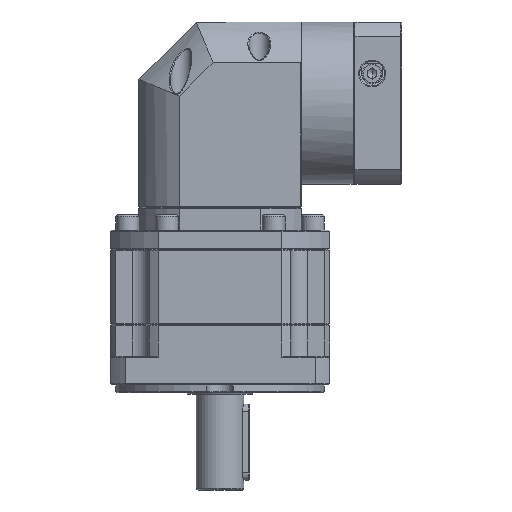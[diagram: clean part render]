
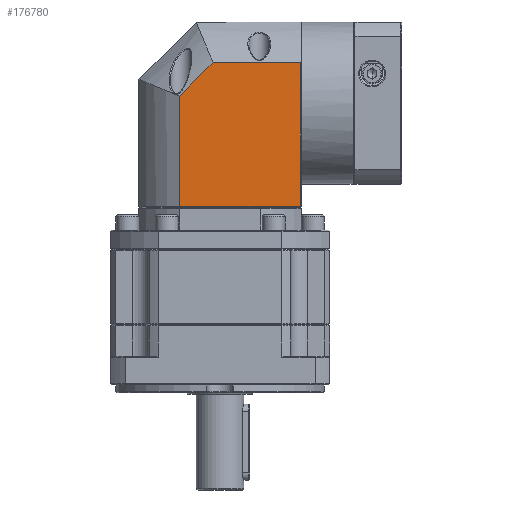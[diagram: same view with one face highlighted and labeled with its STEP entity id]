
A CAD part, front view. The second image highlights one B-rep face of the part: STEP entity #176780.
In plain terms, the highlighted planar face has unit normal (0, -1, 0).
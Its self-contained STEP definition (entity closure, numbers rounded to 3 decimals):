
#550 = PLANE ( 'NONE',  #21422 ) ;
#1205 = CARTESIAN_POINT ( 'NONE',  ( 22.761, -18.692, 222.502 ) ) ;
#3187 = VECTOR ( 'NONE', #112368, 1000. ) ;
#7606 = LINE ( 'NONE', #98141, #3187 ) ;
#8651 = DIRECTION ( 'NONE',  ( 0.707, 0., 0.707 ) ) ;
#9659 = DIRECTION ( 'NONE',  ( 1., 0., 0. ) ) ;
#11134 = LINE ( 'NONE', #178429, #153032 ) ;
#19578 = EDGE_CURVE ( 'NONE', #50686, #117092, #7606, .T. ) ;
#19679 = CARTESIAN_POINT ( 'NONE',  ( 22.761, -18.692, 297.715 ) ) ;
#21422 = AXIS2_PLACEMENT_3D ( 'NONE', #57508, #156698, #71762 ) ;
#33569 = ORIENTED_EDGE ( 'NONE', *, *, #152483, .F. ) ;
#45210 = LINE ( 'NONE', #63338, #120633 ) ;
#47443 = ORIENTED_EDGE ( 'NONE', *, *, #19578, .T. ) ;
#48551 = EDGE_CURVE ( 'NONE', #50686, #115481, #45210, .T. ) ;
#50686 = VERTEX_POINT ( 'NONE', #178414 ) ;
#51155 = CARTESIAN_POINT ( 'NONE',  ( 23.261, -18.692, 297.715 ) ) ;
#53840 = ORIENTED_EDGE ( 'NONE', *, *, #65669, .F. ) ;
#55591 = LINE ( 'NONE', #51155, #126579 ) ;
#57508 = CARTESIAN_POINT ( 'NONE',  ( 23.261, -18.692, 319.002 ) ) ;
#63338 = CARTESIAN_POINT ( 'NONE',  ( -40.452, -18.692, 319.002 ) ) ;
#65669 = EDGE_CURVE ( 'NONE', #115481, #163776, #11134, .T. ) ;
#71762 = DIRECTION ( 'NONE',  ( -1., 0., 0. ) ) ;
#89222 = FACE_OUTER_BOUND ( 'NONE', #180358, .T. ) ;
#96069 = ORIENTED_EDGE ( 'NONE', *, *, #48551, .F. ) ;
#97249 = CARTESIAN_POINT ( 'NONE',  ( 22.761, -18.692, 319.002 ) ) ;
#98141 = CARTESIAN_POINT ( 'NONE',  ( 23.261, -18.692, 222.502 ) ) ;
#99379 = EDGE_CURVE ( 'NONE', #163776, #121074, #55591, .T. ) ;
#99903 = VECTOR ( 'NONE', #168500, 1000. ) ;
#99981 = CARTESIAN_POINT ( 'NONE',  ( -22.922, -18.692, 297.715 ) ) ;
#102762 = ORIENTED_EDGE ( 'NONE', *, *, #99379, .F. ) ;
#112368 = DIRECTION ( 'NONE',  ( 1., 0., 0. ) ) ;
#115481 = VERTEX_POINT ( 'NONE', #146816 ) ;
#117092 = VERTEX_POINT ( 'NONE', #1205 ) ;
#120633 = VECTOR ( 'NONE', #162440, 1000. ) ;
#121074 = VERTEX_POINT ( 'NONE', #19679 ) ;
#126579 = VECTOR ( 'NONE', #9659, 1000. ) ;
#137484 = LINE ( 'NONE', #97249, #99903 ) ;
#146816 = CARTESIAN_POINT ( 'NONE',  ( -40.452, -18.692, 280.185 ) ) ;
#152483 = EDGE_CURVE ( 'NONE', #121074, #117092, #137484, .T. ) ;
#153032 = VECTOR ( 'NONE', #8651, 1000. ) ;
#156698 = DIRECTION ( 'NONE',  ( 0., 1., 0. ) ) ;
#162440 = DIRECTION ( 'NONE',  ( 0., 0., 1. ) ) ;
#163776 = VERTEX_POINT ( 'NONE', #99981 ) ;
#168500 = DIRECTION ( 'NONE',  ( 0., 0., -1. ) ) ;
#176780 = ADVANCED_FACE ( 'NONE', ( #89222 ), #550, .F. ) ;
#178414 = CARTESIAN_POINT ( 'NONE',  ( -40.452, -18.692, 222.502 ) ) ;
#178429 = CARTESIAN_POINT ( 'NONE',  ( -40.452, -18.692, 280.185 ) ) ;
#180358 = EDGE_LOOP ( 'NONE', ( #47443, #33569, #102762, #53840, #96069 ) ) ;
